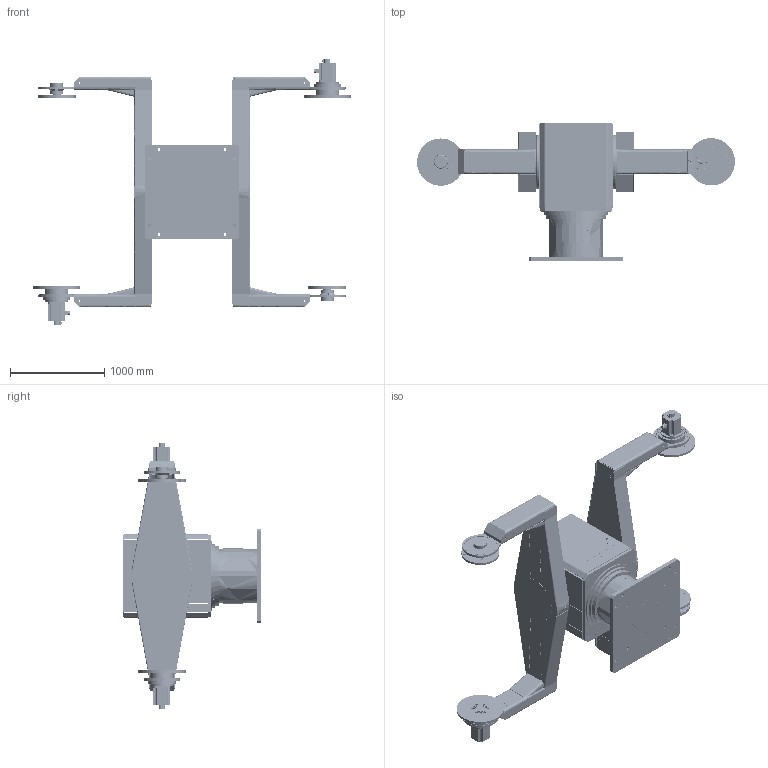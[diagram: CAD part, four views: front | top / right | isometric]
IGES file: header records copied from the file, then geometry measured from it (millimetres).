
Start section: SolidWorks IGES file using analytic representation for surfaces
Global section: file name: S:\Standardpositionierer\3D-Modelle (reduziert)\R2C\140683red\140683red.IGS; native system: SolidWorks 2008; preprocessor: SolidWorks 2008; author: loeschner; date: 081027.150549; units: millimetre
Bounding box: 3364.74 x 1464 x 2818 mm (x, y, z)
Surface area: 40260320.2 mm2 (no closed solid volume)
Topology: 0 solids, 0 shells, 5841 faces, 124515 edges, 124123 vertices
Faces by surface type: revolution 4254, bspline 1587
